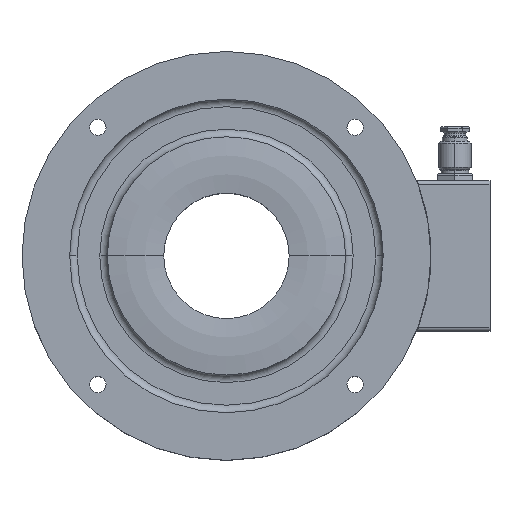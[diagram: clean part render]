
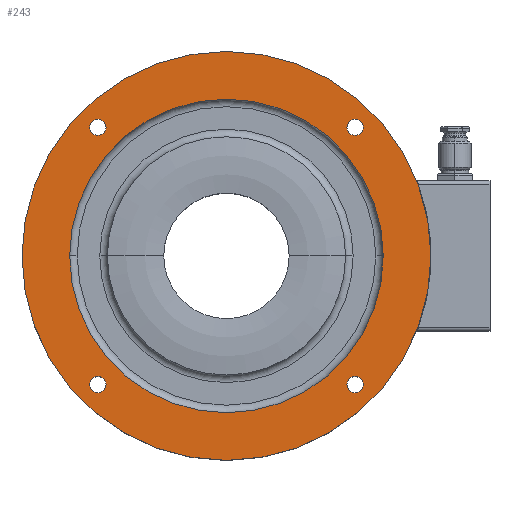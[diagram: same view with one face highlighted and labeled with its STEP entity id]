
A CAD part, top view. The second image highlights one B-rep face of the part: STEP entity #243.
In plain terms, the highlighted planar face has unit normal (0, 0, 1) as drawn and (0, 1, 0) by its records, which use the part's own axes.
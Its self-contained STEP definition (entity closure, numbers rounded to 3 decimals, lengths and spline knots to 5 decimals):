
#243=ADVANCED_FACE('0:502',(#510,#511,#512,#513,#514,#515),#516,.T.);
#510=FACE_OUTER_BOUND('',#841,.T.);
#511=FACE_BOUND('',#842,.T.);
#512=FACE_BOUND('',#843,.T.);
#513=FACE_BOUND('',#844,.T.);
#514=FACE_BOUND('',#845,.T.);
#515=FACE_BOUND('',#846,.T.);
#516=PLANE('',#847);
#841=EDGE_LOOP('',(#1270,#1271));
#842=EDGE_LOOP('',(#1272,#1273));
#843=EDGE_LOOP('',(#1274,#1275));
#844=EDGE_LOOP('',(#1276,#1277));
#845=EDGE_LOOP('',(#1278,#1279));
#846=EDGE_LOOP('',(#1280,#1281));
#847=AXIS2_PLACEMENT_3D('',#1282,#1283,#1284);
#1270=ORIENTED_EDGE('',*,*,#1944,.F.);
#1271=ORIENTED_EDGE('',*,*,#1999,.F.);
#1272=ORIENTED_EDGE('',*,*,#1964,.F.);
#1273=ORIENTED_EDGE('',*,*,#1990,.F.);
#1274=ORIENTED_EDGE('',*,*,#1969,.F.);
#1275=ORIENTED_EDGE('',*,*,#1987,.F.);
#1276=ORIENTED_EDGE('',*,*,#1974,.F.);
#1277=ORIENTED_EDGE('',*,*,#1984,.F.);
#1278=ORIENTED_EDGE('',*,*,#1979,.F.);
#1279=ORIENTED_EDGE('',*,*,#1981,.F.);
#1280=ORIENTED_EDGE('',*,*,#1927,.T.);
#1281=ORIENTED_EDGE('',*,*,#2006,.T.);
#1282=CARTESIAN_POINT('',(0.0625,0.04,0.0));
#1283=DIRECTION('',(0.,1.0,0.));
#1284=DIRECTION('',(1.0,0.0,0.));
#1927=EDGE_CURVE('0:568',#2247,#2244,#2248,.T.);
#1944=EDGE_CURVE('0:556',#2274,#2270,#2276,.T.);
#1964=EDGE_CURVE('0:535',#2306,#2302,#2308,.F.);
#1969=EDGE_CURVE('0:529',#2315,#2311,#2317,.F.);
#1974=EDGE_CURVE('0:523',#2324,#2320,#2326,.F.);
#1979=EDGE_CURVE('0:517',#2333,#2329,#2335,.F.);
#1981=EDGE_CURVE('',#2329,#2333,#2337,.F.);
#1984=EDGE_CURVE('',#2320,#2324,#2340,.F.);
#1987=EDGE_CURVE('',#2311,#2315,#2343,.F.);
#1990=EDGE_CURVE('',#2302,#2306,#2346,.F.);
#1999=EDGE_CURVE('',#2270,#2274,#2355,.T.);
#2006=EDGE_CURVE('',#2244,#2247,#2362,.T.);
#2244=VERTEX_POINT('',#2692);
#2247=VERTEX_POINT('',#2695);
#2248=CIRCLE('',#2696,0.0625);
#2270=VERTEX_POINT('',#2720);
#2274=VERTEX_POINT('NONE',#2725);
#2276=CIRCLE('',#2728,0.0815);
#2302=VERTEX_POINT('',#2758);
#2306=VERTEX_POINT('NONE',#2763);
#2308=CIRCLE('',#2766,0.00325);
#2311=VERTEX_POINT('',#2769);
#2315=VERTEX_POINT('NONE',#2774);
#2317=CIRCLE('',#2777,0.00325);
#2320=VERTEX_POINT('',#2780);
#2324=VERTEX_POINT('NONE',#2785);
#2326=CIRCLE('',#2788,0.00325);
#2329=VERTEX_POINT('',#2791);
#2333=VERTEX_POINT('NONE',#2796);
#2335=CIRCLE('',#2799,0.00325);
#2337=CIRCLE('',#2801,0.00325);
#2340=CIRCLE('',#2804,0.00325);
#2343=CIRCLE('',#2807,0.00325);
#2346=CIRCLE('',#2810,0.00325);
#2355=CIRCLE('',#2819,0.0815);
#2362=CIRCLE('',#2826,0.0625);
#2692=CARTESIAN_POINT('',(-0.0625,0.04,0.));
#2695=CARTESIAN_POINT('',(0.0625,0.04,0.));
#2696=AXIS2_PLACEMENT_3D('',#3282,#3283,#3284);
#2720=CARTESIAN_POINT('',(0.0815,0.04,0.));
#2725=CARTESIAN_POINT('',(-0.0815,0.04,0.));
#2728=AXIS2_PLACEMENT_3D('',#3316,#3317,#3318);
#2758=CARTESIAN_POINT('',(-0.05127,0.04,0.05452));
#2763=CARTESIAN_POINT('',(-0.05127,0.04,0.04802));
#2766=AXIS2_PLACEMENT_3D('',#3352,#3353,#3354);
#2769=CARTESIAN_POINT('',(0.05127,0.04,0.05452));
#2774=CARTESIAN_POINT('',(0.05127,0.04,0.04802));
#2777=AXIS2_PLACEMENT_3D('',#3360,#3361,#3362);
#2780=CARTESIAN_POINT('',(0.05127,0.04,-0.04802));
#2785=CARTESIAN_POINT('',(0.05127,0.04,-0.05452));
#2788=AXIS2_PLACEMENT_3D('',#3368,#3369,#3370);
#2791=CARTESIAN_POINT('',(-0.05127,0.04,-0.04802));
#2796=CARTESIAN_POINT('',(-0.05127,0.04,-0.05452));
#2799=AXIS2_PLACEMENT_3D('',#3376,#3377,#3378);
#2801=AXIS2_PLACEMENT_3D('',#3379,#3380,#3381);
#2804=AXIS2_PLACEMENT_3D('',#3385,#3386,#3387);
#2807=AXIS2_PLACEMENT_3D('',#3391,#3392,#3393);
#2810=AXIS2_PLACEMENT_3D('',#3397,#3398,#3399);
#2819=AXIS2_PLACEMENT_3D('',#3412,#3413,#3414);
#2826=AXIS2_PLACEMENT_3D('',#3424,#3425,#3426);
#3282=CARTESIAN_POINT('',(0.,0.04,0.0));
#3283=DIRECTION('',(0.0,-1.0,0.0));
#3284=DIRECTION('',(1.0,0.0,0.0));
#3316=CARTESIAN_POINT('',(0.,0.04,0.0));
#3317=DIRECTION('',(0.0,-1.0,0.0));
#3318=DIRECTION('',(1.0,0.0,0.0));
#3352=CARTESIAN_POINT('',(-0.05127,0.04,0.05127));
#3353=DIRECTION('',(0.,-1.0,0.));
#3354=DIRECTION('',(0.,0.,1.0));
#3360=CARTESIAN_POINT('',(0.05127,0.04,0.05127));
#3361=DIRECTION('',(0.,-1.0,0.));
#3362=DIRECTION('',(0.,0.,1.0));
#3368=CARTESIAN_POINT('',(0.05127,0.04,-0.05127));
#3369=DIRECTION('',(0.,-1.0,0.));
#3370=DIRECTION('',(0.,0.,1.0));
#3376=CARTESIAN_POINT('',(-0.05127,0.04,-0.05127));
#3377=DIRECTION('',(0.,-1.0,0.));
#3378=DIRECTION('',(0.,0.,1.0));
#3379=CARTESIAN_POINT('',(-0.05127,0.04,-0.05127));
#3380=DIRECTION('',(0.,-1.0,0.));
#3381=DIRECTION('',(0.,0.,1.0));
#3385=CARTESIAN_POINT('',(0.05127,0.04,-0.05127));
#3386=DIRECTION('',(0.,-1.0,0.));
#3387=DIRECTION('',(0.,0.,1.0));
#3391=CARTESIAN_POINT('',(0.05127,0.04,0.05127));
#3392=DIRECTION('',(0.,-1.0,0.));
#3393=DIRECTION('',(0.,0.,1.0));
#3397=CARTESIAN_POINT('',(-0.05127,0.04,0.05127));
#3398=DIRECTION('',(0.,-1.0,0.));
#3399=DIRECTION('',(0.,0.,1.0));
#3412=CARTESIAN_POINT('',(0.,0.04,0.0));
#3413=DIRECTION('',(0.0,-1.0,0.0));
#3414=DIRECTION('',(1.0,0.0,0.0));
#3424=CARTESIAN_POINT('',(0.,0.04,0.0));
#3425=DIRECTION('',(0.0,-1.0,0.0));
#3426=DIRECTION('',(1.0,0.0,0.0));
